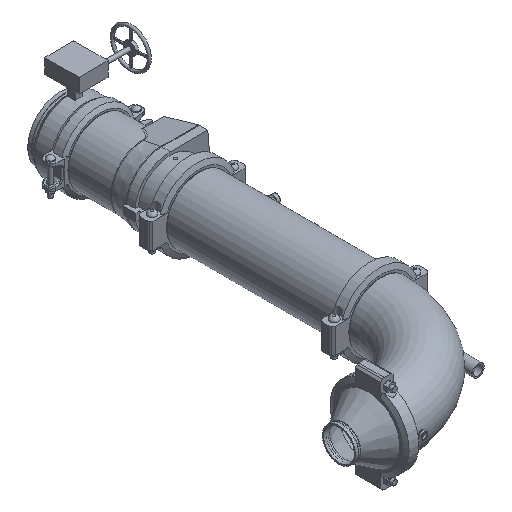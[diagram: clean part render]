
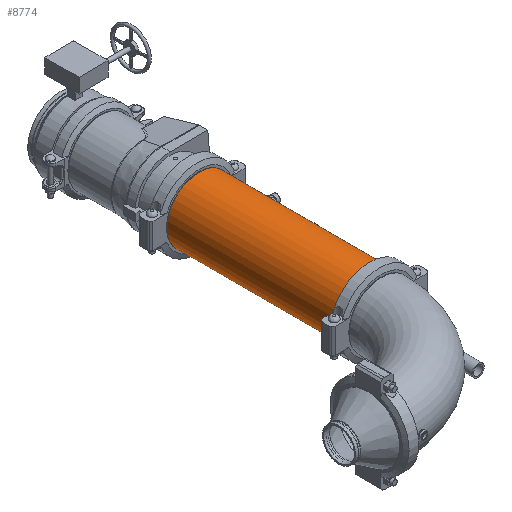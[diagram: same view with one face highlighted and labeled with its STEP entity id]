
A CAD part, isometric view. The second image highlights one B-rep face of the part: STEP entity #8774.
In plain terms, the highlighted cylindrical face has radius 161.925 mm (diameter 323.85 mm), a full revolution.
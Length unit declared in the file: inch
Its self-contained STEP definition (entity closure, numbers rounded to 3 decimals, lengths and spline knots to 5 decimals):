
#258=LINE('',#13279,#896);
#896=VECTOR('',#10567,6.375);
#1534=CYLINDRICAL_SURFACE('',#9507,6.375);
#1811=FACE_OUTER_BOUND('',#2310,.T.);
#2310=EDGE_LOOP('',(#5502,#5503,#5504,#5505,#5506,#5507));
#2913=CIRCLE('',#9505,6.375);
#2914=CIRCLE('',#9506,6.375);
#2915=CIRCLE('',#9508,6.375);
#2916=CIRCLE('',#9509,6.375);
#3400=VERTEX_POINT('',#13270);
#3401=VERTEX_POINT('',#13271);
#3402=VERTEX_POINT('',#13275);
#3403=VERTEX_POINT('',#13276);
#4246=EDGE_CURVE('',#3400,#3401,#2913,.T.);
#4247=EDGE_CURVE('',#3401,#3400,#2914,.T.);
#4248=EDGE_CURVE('',#3402,#3403,#2915,.T.);
#4249=EDGE_CURVE('',#3403,#3402,#2916,.T.);
#4250=EDGE_CURVE('',#3403,#3401,#258,.T.);
#5502=ORIENTED_EDGE('',*,*,#4248,.F.);
#5503=ORIENTED_EDGE('',*,*,#4249,.F.);
#5504=ORIENTED_EDGE('',*,*,#4250,.T.);
#5505=ORIENTED_EDGE('',*,*,#4247,.T.);
#5506=ORIENTED_EDGE('',*,*,#4246,.T.);
#5507=ORIENTED_EDGE('',*,*,#4250,.F.);
#8774=ADVANCED_FACE('',(#1811),#1534,.T.);
#9505=AXIS2_PLACEMENT_3D('',#13272,#10557,#10558);
#9506=AXIS2_PLACEMENT_3D('',#13273,#10559,#10560);
#9507=AXIS2_PLACEMENT_3D('',#13274,#10561,#10562);
#9508=AXIS2_PLACEMENT_3D('',#13277,#10563,#10564);
#9509=AXIS2_PLACEMENT_3D('',#13278,#10565,#10566);
#10557=DIRECTION('center_axis',(1.,0.,0.));
#10558=DIRECTION('ref_axis',(0.,0.,-1.));
#10559=DIRECTION('center_axis',(1.,0.,0.));
#10560=DIRECTION('ref_axis',(0.,0.,-1.));
#10561=DIRECTION('center_axis',(1.,0.,0.));
#10562=DIRECTION('ref_axis',(0.,1.,0.));
#10563=DIRECTION('center_axis',(1.,0.,0.));
#10564=DIRECTION('ref_axis',(0.,0.,-1.));
#10565=DIRECTION('center_axis',(1.,0.,0.));
#10566=DIRECTION('ref_axis',(0.,0.,-1.));
#10567=DIRECTION('',(-1.,0.,0.));
#13270=CARTESIAN_POINT('',(-16.77475,6.375,0.));
#13271=CARTESIAN_POINT('',(-16.77475,-6.375,0.));
#13272=CARTESIAN_POINT('Origin',(-16.77475,0.,0.));
#13273=CARTESIAN_POINT('Origin',(-16.77475,0.,0.));
#13274=CARTESIAN_POINT('Origin',(0.,0.,0.));
#13275=CARTESIAN_POINT('',(16.77475,6.375,0.));
#13276=CARTESIAN_POINT('',(16.77475,-6.375,0.));
#13277=CARTESIAN_POINT('Origin',(16.77475,0.,0.));
#13278=CARTESIAN_POINT('Origin',(16.77475,0.,0.));
#13279=CARTESIAN_POINT('',(0.,-6.375,0.));
